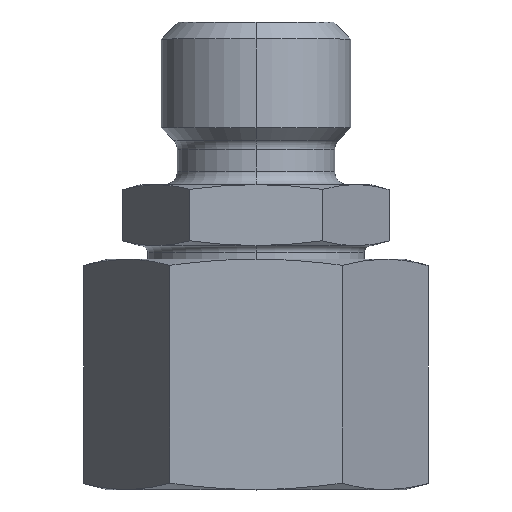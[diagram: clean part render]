
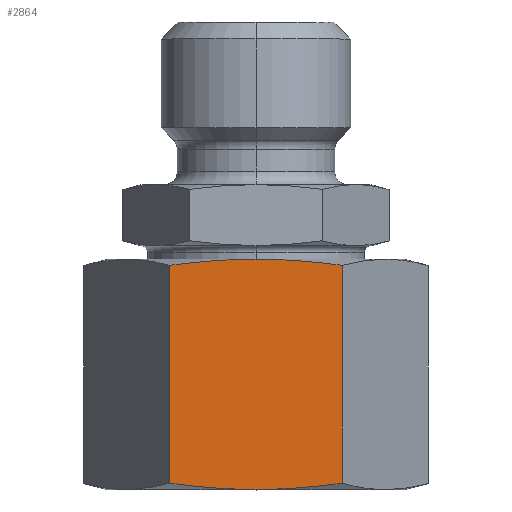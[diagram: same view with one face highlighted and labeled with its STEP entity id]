
A CAD part, top view. The second image highlights one B-rep face of the part: STEP entity #2864.
In plain terms, the highlighted planar face has unit normal (0, 0, 1).
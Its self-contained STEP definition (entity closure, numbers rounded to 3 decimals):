
#73 = CARTESIAN_POINT ( 'NONE',  ( -1.057, 16.995, 11. ) ) ;
#115 = VERTEX_POINT ( 'NONE', #1677 ) ;
#190 = VERTEX_POINT ( 'NONE', #2732 ) ;
#200 = CARTESIAN_POINT ( 'NONE',  ( 0., 16.995, 11. ) ) ;
#209 = CARTESIAN_POINT ( 'NONE',  ( -1.057, 0.005, 11. ) ) ;
#223 = CARTESIAN_POINT ( 'NONE',  ( 0., 16.995, 11. ) ) ;
#249 = CARTESIAN_POINT ( 'NONE',  ( 5.294, 0.319, 11. ) ) ;
#285 = VERTEX_POINT ( 'NONE', #200 ) ;
#332 = VERTEX_POINT ( 'NONE', #3293 ) ;
#433 = CARTESIAN_POINT ( 'NONE',  ( -6.351, 16.539, 11. ) ) ;
#473 = CARTESIAN_POINT ( 'NONE',  ( 1.061, 0.005, 11. ) ) ;
#680 = CARTESIAN_POINT ( 'NONE',  ( 1.061, 16.995, 11. ) ) ;
#690 = CARTESIAN_POINT ( 'NONE',  ( 0., 16.995, 11. ) ) ;
#698 = CARTESIAN_POINT ( 'NONE',  ( 2.12, 16.953, 11. ) ) ;
#757 = CARTESIAN_POINT ( 'NONE',  ( -2.115, 16.954, 11. ) ) ;
#833 = CARTESIAN_POINT ( 'NONE',  ( -6.351, 0., 11. ) ) ;
#837 = CARTESIAN_POINT ( 'NONE',  ( 2.12, 0.047, 11. ) ) ;
#923 = VERTEX_POINT ( 'NONE', #2660 ) ;
#971 = CARTESIAN_POINT ( 'NONE',  ( -6.351, 0.461, 11. ) ) ;
#1016 = CARTESIAN_POINT ( 'NONE',  ( -28.085, 0., 11. ) ) ;
#1120 = DIRECTION ( 'NONE',  ( 0., 1., 0. ) ) ;
#1152 = LINE ( 'NONE', #1833, #3230 ) ;
#1153 = CARTESIAN_POINT ( 'NONE',  ( 0., 0.005, 11. ) ) ;
#1177 = CARTESIAN_POINT ( 'NONE',  ( -4.234, 16.796, 11. ) ) ;
#1193 = EDGE_CURVE ( 'NONE', #190, #2353, #1152, .T. ) ;
#1300 = CARTESIAN_POINT ( 'NONE',  ( 6.351, 0.461, 11. ) ) ;
#1511 = CARTESIAN_POINT ( 'NONE',  ( 4.237, 16.796, 11. ) ) ;
#1561 = ORIENTED_EDGE ( 'NONE', *, *, #1193, .T. ) ;
#1576 = CARTESIAN_POINT ( 'NONE',  ( 4.237, 0.204, 11. ) ) ;
#1577 = DIRECTION ( 'NONE',  ( 0., 1., 0. ) ) ;
#1582 = B_SPLINE_CURVE_WITH_KNOTS ( 'NONE', 3,
 ( #1153, #209, #2572, #2037, #3116, #971 ),
 .UNSPECIFIED., .F., .F.,
 ( 4, 2, 4 ),
 ( 0.031, 0.034, 0.037 ),
 .UNSPECIFIED. ) ;
#1642 = EDGE_CURVE ( 'NONE', #190, #923, #1987, .T. ) ;
#1662 = DIRECTION ( 'NONE',  ( 0., 0., 1. ) ) ;
#1677 = CARTESIAN_POINT ( 'NONE',  ( -6.351, 0.461, 11. ) ) ;
#1691 = EDGE_LOOP ( 'NONE', ( #1561, #3283, #2728, #2259, #2342, #2226 ) ) ;
#1802 = EDGE_CURVE ( 'NONE', #332, #285, #2947, .T. ) ;
#1833 = CARTESIAN_POINT ( 'NONE',  ( 6.351, 0., 11. ) ) ;
#1857 = CARTESIAN_POINT ( 'NONE',  ( 0., 0.005, 11. ) ) ;
#1980 = EDGE_CURVE ( 'NONE', #285, #2353, #2730, .T. ) ;
#1987 = B_SPLINE_CURVE_WITH_KNOTS ( 'NONE', 3,
 ( #1300, #249, #1576, #837, #473, #1857 ),
 .UNSPECIFIED., .F., .F.,
 ( 4, 2, 4 ),
 ( 0.024, 0.027, 0.031 ),
 .UNSPECIFIED. ) ;
#2029 = PLANE ( 'NONE',  #2163 ) ;
#2037 = CARTESIAN_POINT ( 'NONE',  ( -4.234, 0.204, 11. ) ) ;
#2043 = EDGE_CURVE ( 'NONE', #923, #115, #1582, .T. ) ;
#2163 = AXIS2_PLACEMENT_3D ( 'NONE', #1016, #1662, #2967 ) ;
#2226 = ORIENTED_EDGE ( 'NONE', *, *, #1642, .F. ) ;
#2229 = CARTESIAN_POINT ( 'NONE',  ( -5.296, 16.68, 11. ) ) ;
#2244 = EDGE_CURVE ( 'NONE', #115, #332, #3318, .T. ) ;
#2259 = ORIENTED_EDGE ( 'NONE', *, *, #2244, .F. ) ;
#2342 = ORIENTED_EDGE ( 'NONE', *, *, #2043, .F. ) ;
#2353 = VERTEX_POINT ( 'NONE', #3228 ) ;
#2572 = CARTESIAN_POINT ( 'NONE',  ( -2.115, 0.046, 11. ) ) ;
#2660 = CARTESIAN_POINT ( 'NONE',  ( 0., 0.005, 11. ) ) ;
#2728 = ORIENTED_EDGE ( 'NONE', *, *, #1802, .F. ) ;
#2730 = B_SPLINE_CURVE_WITH_KNOTS ( 'NONE', 3,
 ( #223, #680, #698, #1511, #2883, #3217 ),
 .UNSPECIFIED., .F., .F.,
 ( 4, 2, 4 ),
 ( 0.017, 0.02, 0.023 ),
 .UNSPECIFIED. ) ;
#2732 = CARTESIAN_POINT ( 'NONE',  ( 6.351, 0.461, 11. ) ) ;
#2864 = ADVANCED_FACE ( 'NONE', ( #3142 ), #2029, .T. ) ;
#2883 = CARTESIAN_POINT ( 'NONE',  ( 5.294, 16.681, 11. ) ) ;
#2947 = B_SPLINE_CURVE_WITH_KNOTS ( 'NONE', 3,
 ( #433, #2229, #1177, #757, #73, #690 ),
 .UNSPECIFIED., .F., .F.,
 ( 4, 2, 4 ),
 ( 0.011, 0.014, 0.017 ),
 .UNSPECIFIED. ) ;
#2967 = DIRECTION ( 'NONE',  ( 1., 0., 0. ) ) ;
#3116 = CARTESIAN_POINT ( 'NONE',  ( -5.296, 0.32, 11. ) ) ;
#3142 = FACE_OUTER_BOUND ( 'NONE', #1691, .T. ) ;
#3217 = CARTESIAN_POINT ( 'NONE',  ( 6.351, 16.539, 11. ) ) ;
#3228 = CARTESIAN_POINT ( 'NONE',  ( 6.351, 16.539, 11. ) ) ;
#3230 = VECTOR ( 'NONE', #1120, 1000. ) ;
#3233 = VECTOR ( 'NONE', #1577, 1000. ) ;
#3283 = ORIENTED_EDGE ( 'NONE', *, *, #1980, .F. ) ;
#3293 = CARTESIAN_POINT ( 'NONE',  ( -6.351, 16.539, 11. ) ) ;
#3318 = LINE ( 'NONE', #833, #3233 ) ;
